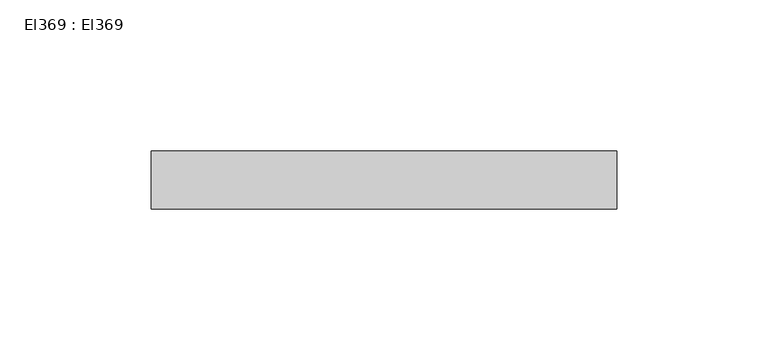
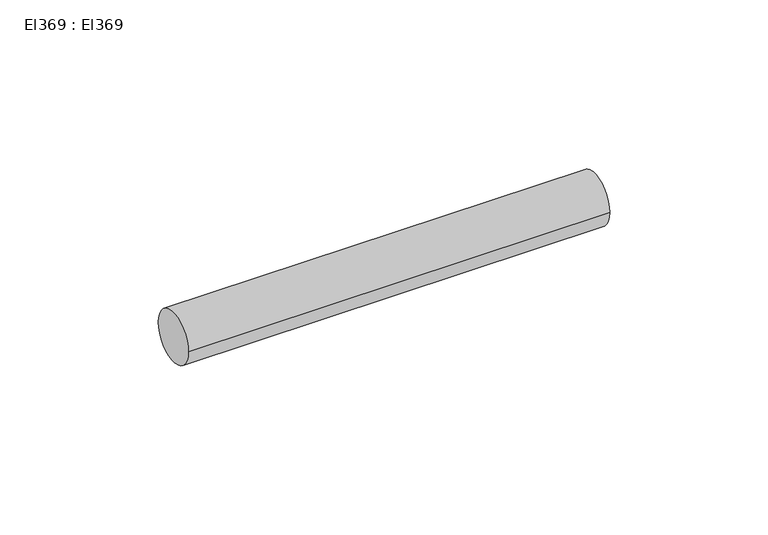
"""IFC4 building model written with IfcOpenShell, lengths in millimetres: cable carrier segment geometry, El369 : El369."""

import ifcopenshell
import ifcopenshell.guid

model = None  # the IFC model being written
_history = None  # IfcOwnerHistory: only IFC2X3 demands one
_inside = {}  # id of a spatial element -> (the spatial element, [elements in it])
_under = {}  # id of a project, library or spatial element -> (it, [spatial elements below it])
_declared = {}  # id of a project -> (the project, [libraries it declares])
_typed = {}  # id of a type object -> (the type object, [elements of that type])
_made_of = {}  # id of a material, layer set ... -> (it, [elements and type objects made of it])


def new_model(schema):
    """Start an empty IFC model of exactly this schema.

    Asked for "IFC4X3", IfcOpenShell would pick the latest addendum, in which some entities
    have other attributes; the version numbers below select the first issue.
    IFC2X3 requires an IfcOwnerHistory on every rooted entity: one is made here for all.
    """
    global model, _history
    if schema == "IFC4X3":
        model = ifcopenshell.file(schema_version=(4, 3, 0, 0))
    else:
        model = ifcopenshell.file(schema=schema)
    _inside.clear()
    _under.clear()
    _declared.clear()
    _typed.clear()
    _made_of.clear()
    _history = None
    if model.schema == "IFC2X3":
        org = make("IfcOrganization", Name="unknown")
        user = make(
            "IfcPersonAndOrganization",
            ThePerson=make("IfcPerson", FamilyName="unknown"),
            TheOrganization=org,
        )
        app = make(
            "IfcApplication",
            ApplicationDeveloper=org,
            Version="unknown",
            ApplicationFullName="unknown",
            ApplicationIdentifier="unknown",
        )
        _history = make(
            "IfcOwnerHistory",
            OwningUser=user,
            OwningApplication=app,
            ChangeAction="ADDED",
            CreationDate=0,
        )
    return model


def make(cls, **values):
    """One entity of the class cls with the attributes given. An attribute that is None is left unset."""
    return model.create_entity(
        cls, **{name: value for name, value in values.items() if value is not None}
    )


def rooted(cls, **values):
    """An entity with a GlobalId (a new one), such as an element, a storey or a relation."""
    return make(cls, GlobalId=ifcopenshell.guid.new(), OwnerHistory=_history, **values)


def si_unit(unit_type, name, prefix=None):
    """IfcSIUnit, for example si_unit("LENGTHUNIT", "METRE", prefix="MILLI")."""
    return make("IfcSIUnit", UnitType=unit_type, Prefix=prefix, Name=name)


def assignment(units):
    """IfcUnitAssignment: the units of a project."""
    return None if units is None else make("IfcUnitAssignment", Units=units)


def point(xyz):
    """IfcCartesianPoint."""
    return None if xyz is None else make("IfcCartesianPoint", Coordinates=xyz)


def direction(xyz):
    """IfcDirection."""
    return None if xyz is None else make("IfcDirection", DirectionRatios=xyz)


def frame(location, z_axis=None, x_axis=None):
    """IfcAxis2Placement3D, a coordinate frame: its origin and axes. An axis left out is left unset."""
    return make(
        "IfcAxis2Placement3D",
        Location=point(location),
        Axis=direction(z_axis),
        RefDirection=direction(x_axis),
    )


def frame_2d(location, x_axis=None):
    """IfcAxis2Placement2D, a coordinate frame in the plane: its origin and x axis."""
    return make(
        "IfcAxis2Placement2D", Location=point(location), RefDirection=direction(x_axis)
    )


def origin():
    """The frame at (0, 0, 0) with its axes left unset."""
    return frame((0.0, 0.0, 0.0))


def place(relative_to, where):
    """IfcLocalPlacement: puts the frame where relative to a parent placement (None: the world)."""
    return make(
        "IfcLocalPlacement", PlacementRelTo=relative_to, RelativePlacement=where
    )


def context(
    kind, dimensions, precision=None, world=None, true_north=None, identifier=None
):
    """IfcGeometricRepresentationContext, for example the 3D "Model" context."""
    return make(
        "IfcGeometricRepresentationContext",
        ContextIdentifier=identifier,
        ContextType=kind,
        CoordinateSpaceDimension=dimensions,
        Precision=precision,
        WorldCoordinateSystem=world,
        TrueNorth=true_north,
    )


def project(units=None, contexts=None):
    """IfcProject with its units and contexts."""
    return rooted(
        "IfcProject",
        Name="project",
        RepresentationContexts=contexts,
        UnitsInContext=assignment(units),
    )


def spatial(cls, under=None, at=None, **own):
    """A site, building, storey or space (cls), placed at a placement, below another one or the project."""
    s = rooted(cls, ObjectPlacement=at, **own)
    if under is not None:
        _under.setdefault(under.id(), (under, []))[1].append(s)
    return s


def circle_curve(where, radius):
    """IfcCircle in the frame where."""
    return make("IfcCircle", Position=where, Radius=radius)


def trimmed(basis, trim1, trim2, sense, master):
    """IfcTrimmedCurve: the piece of a basis curve between two trims."""
    return make(
        "IfcTrimmedCurve",
        BasisCurve=basis,
        Trim1=trim1,
        Trim2=trim2,
        SenseAgreement=sense,
        MasterRepresentation=master,
    )


def segment(curve, same_sense, transition):
    """IfcCompositeCurveSegment."""
    return make(
        "IfcCompositeCurveSegment",
        Transition=transition,
        SameSense=same_sense,
        ParentCurve=curve,
    )


def composite_curve(segments, self_intersect=None):
    """IfcCompositeCurve: segments joined end to end."""
    return make("IfcCompositeCurve", Segments=segments, SelfIntersect=self_intersect)


def outline(outer, holes=None, kind="AREA"):
    """IfcArbitraryClosedProfileDef: a profile drawn as a closed curve; with holes, ...WithVoids."""
    if holes is None:
        return make("IfcArbitraryClosedProfileDef", ProfileType=kind, OuterCurve=outer)
    return make(
        "IfcArbitraryProfileDefWithVoids",
        ProfileType=kind,
        OuterCurve=outer,
        InnerCurves=holes,
    )


def extrude(swept, where, along, depth):
    """IfcExtrudedAreaSolid: the profile swept, set in the frame where, extruded along a direction by depth."""
    return make(
        "IfcExtrudedAreaSolid",
        SweptArea=swept,
        Position=where,
        ExtrudedDirection=direction(along),
        Depth=depth,
    )


def shape(context_of_items, identifier, shape_type, items):
    """IfcShapeRepresentation: the items that make up one representation, for example the "Body"."""
    return make(
        "IfcShapeRepresentation",
        ContextOfItems=context_of_items,
        RepresentationIdentifier=identifier,
        RepresentationType=shape_type,
        Items=items,
    )


def source(mapping_origin, context_of_items, identifier, shape_type, items):
    """IfcRepresentationMap: a shape defined once, which mapped items show again and again."""
    return make(
        "IfcRepresentationMap",
        MappingOrigin=mapping_origin,
        MappedRepresentation=shape(context_of_items, identifier, shape_type, items),
    )


def transform(
    local_origin,
    x_axis=None,
    y_axis=None,
    z_axis=None,
    scale=None,
    scale2=None,
    scale3=None,
    uniform=True,
):
    """IfcCartesianTransformationOperator3D, or its non-uniform kind. x_axis, y_axis, z_axis: its Axis1, 2, 3."""
    if uniform:
        return make(
            "IfcCartesianTransformationOperator3D",
            Axis1=direction(x_axis),
            Axis2=direction(y_axis),
            LocalOrigin=point(local_origin),
            Scale=scale,
            Axis3=direction(z_axis),
        )
    return make(
        "IfcCartesianTransformationOperator3DnonUniform",
        Axis1=direction(x_axis),
        Axis2=direction(y_axis),
        LocalOrigin=point(local_origin),
        Scale=scale,
        Axis3=direction(z_axis),
        Scale2=scale2,
        Scale3=scale3,
    )


def mapped(mapping_source, mapping_target):
    """IfcMappedItem: shows the shape of a source again, moved by a transform."""
    return make(
        "IfcMappedItem", MappingSource=mapping_source, MappingTarget=mapping_target
    )


def made_of(thing, what):
    """Note that an element or type object is made of a material, layer set ...; save() writes the relation."""
    if what is not None:
        _made_of.setdefault(what.id(), (what, []))[1].append(thing)
    return thing


def element(
    cls,
    number,
    at=None,
    inside=None,
    cuts=None,
    type_object=None,
    material=None,
    context=None,
    identifier="Body",
    shape_type=None,
    held_by="IfcProductDefinitionShape",
    body=None,
    shapes=None,
    **own,
):
    """One element of the class cls, such as IfcWall. Its Tag is "e" and its number.

    at: its placement. inside: the storey or other place that contains it. cuts: it is an
    opening in that element (IfcRelVoidsElement). A single representation is given by context,
    identifier, shape_type and body (its items); several are given by shapes. held_by: the class
    of the entity that holds the representations. save() writes the other relations.
    """
    e = rooted(cls, Tag="e%d" % number, ObjectPlacement=at, **own)
    if body is not None:
        shapes = [shape(context, identifier, shape_type, body)]
    if shapes is not None:
        e.Representation = make(held_by, Representations=shapes)
    if inside is not None:
        _inside.setdefault(inside.id(), (inside, []))[1].append(e)
    if cuts is not None:
        rooted(
            "IfcRelVoidsElement", RelatingBuildingElement=cuts, RelatedOpeningElement=e
        )
    if type_object is not None:
        _typed.setdefault(type_object.id(), (type_object, []))[1].append(e)
    return made_of(e, material)


def aggregate(whole, parts):
    """IfcRelAggregates: a whole, such as a stair, and the parts it consists of."""
    return rooted("IfcRelAggregates", RelatingObject=whole, RelatedObjects=parts)


def save(model, path):
    """Write the relations noted so far, then the file.

    IfcRelAggregates (storeys below a building ...), IfcRelContainedInSpatialStructure (elements
    in a storey), IfcRelDefinesByType, IfcRelAssociatesMaterial and IfcRelDeclares: one each for
    every whole, place, type object, material and project.
    """
    for whole, parts in _under.values():
        aggregate(whole, parts)
    for where, things in _inside.values():
        rooted(
            "IfcRelContainedInSpatialStructure",
            RelatedElements=things,
            RelatingStructure=where,
        )
    for kind, things in _typed.values():
        rooted("IfcRelDefinesByType", RelatedObjects=things, RelatingType=kind)
    for what, things in _made_of.values():
        rooted("IfcRelAssociatesMaterial", RelatedObjects=things, RelatingMaterial=what)
    for by, libraries in _declared.values():
        rooted("IfcRelDeclares", RelatingContext=by, RelatedDefinitions=libraries)
    model.write(path)


def el369_el369_738e2f52(model_context):
    return source(origin(), model_context, "Body", "SweptSolid", [
        extrude(outline(composite_curve([segment(trimmed(circle_curve(frame_2d((8672.1, 1200.0)), 9.5), [point((8662.6, 1200.0))], [point((8681.6, 1200.0))], False, "CARTESIAN"), True, "CONTINUOUS"), segment(trimmed(circle_curve(frame_2d((8672.1, 1200.0)), 9.5), [point((8681.6, 1200.0))], [point((8662.6, 1200.0))], False, "CARTESIAN"), True, "CONTINUOUS")], self_intersect=False)), frame((10870.4391, 0.0, 0.0), z_axis=(1.0, 0.0, 0.0), x_axis=(0.0, 1.0, 0.0)), (0.0, 0.0, 1.0), 153.522),
    ])


if __name__ == "__main__":
    model = new_model("IFC4")
    model_context = context("Model", 3, world=origin())
    ifc_project = project(units=[si_unit("LENGTHUNIT", "METRE", prefix="MILLI")], contexts=[model_context])
    site = spatial("IfcSite", under=ifc_project)
    building = spatial("IfcBuilding", under=site)
    placement = place(None, origin())
    el369_el369_shape = el369_el369_738e2f52(model_context)
    element("IfcCableCarrierSegment", 1, ObjectType="El369 : El369", at=placement, inside=building, context=model_context, shape_type="MappedRepresentation", body=[
        mapped(el369_el369_shape, transform((0.0, 0.0, 0.0), x_axis=(1.0, 0.0, 0.0), y_axis=(0.0, 1.0, 0.0), z_axis=(0.0, 0.0, 1.0))),
    ])
    save(model, "model.ifc")
